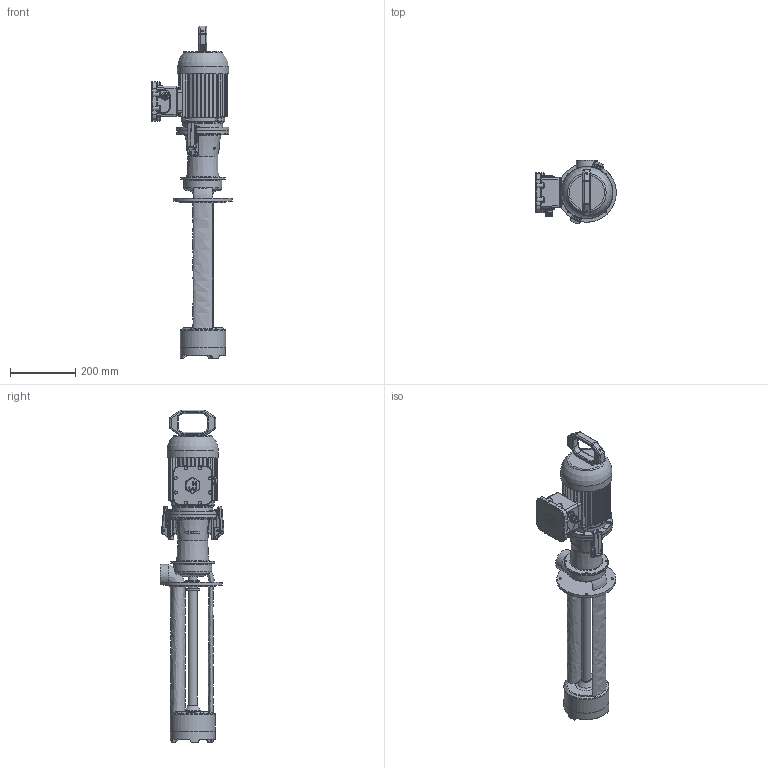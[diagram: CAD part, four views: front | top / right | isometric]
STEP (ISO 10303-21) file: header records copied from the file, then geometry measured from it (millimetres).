
FILE_DESCRIPTION(/* description */ ('Unknown'),/* implementation_level */ '2;1');
FILE_NAME(/* name */ 'EP EX 152-480',/* time_stamp */ '2025-06-03T08:37:26+03:00',/* author */ ('Unknown'),/* organization */ ('Unknown'),/* preprocessor_version */ 'ST-DEVELOPER v16.7',/* originating_system */ 'DEX',/* authorisation */ $);
FILE_SCHEMA (('AUTOMOTIVE_DESIGN {1 0 10303 214 3 1 1}'));
Length unit declared in the file: millimetre
Products named in the file (1): EP EX 152-480
Bounding box: 246.5 x 195.43 x 1016.45 mm (x, y, z)
Volume: 8974859 mm3; surface area: 805637.2 mm2
Topology: 1 solids, 22 shells, 2297 faces, 6058 edges, 3779 vertices
Faces by surface type: cylinder 802, plane 730, bspline 404, torus 201, cone 113, sphere 47
Full cylindrical faces by diameter (mm): 3 x12, 3.242 x16, 4 x10, 4.134 x24, 4.9 x4, 5 x90, 5.3 x4, 5.5 x2, 5.7 x8, 6 x8, 7 x8, 8 x3, 9.5 x8, 12 x1, 13 x2, 13.962 x1, 16 x1, 18.348 x1, 18.376 x5, 19 x1, 20 x2, 21.8 x2, 28 x1, 29 x3, 30 x1, 42 x3, 44 x1, 48 x1, 62 x1, 73 x1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
Entity records: 109777 total; most frequent: CARTESIAN_POINT 43445, ORIENTED_EDGE 10866, DIRECTION 9982, EDGE_CURVE 5433, AXIS2_PLACEMENT_3D 4017, VERTEX_POINT 3586, FACE_BOUND 2697, EDGE_LOOP 2689
